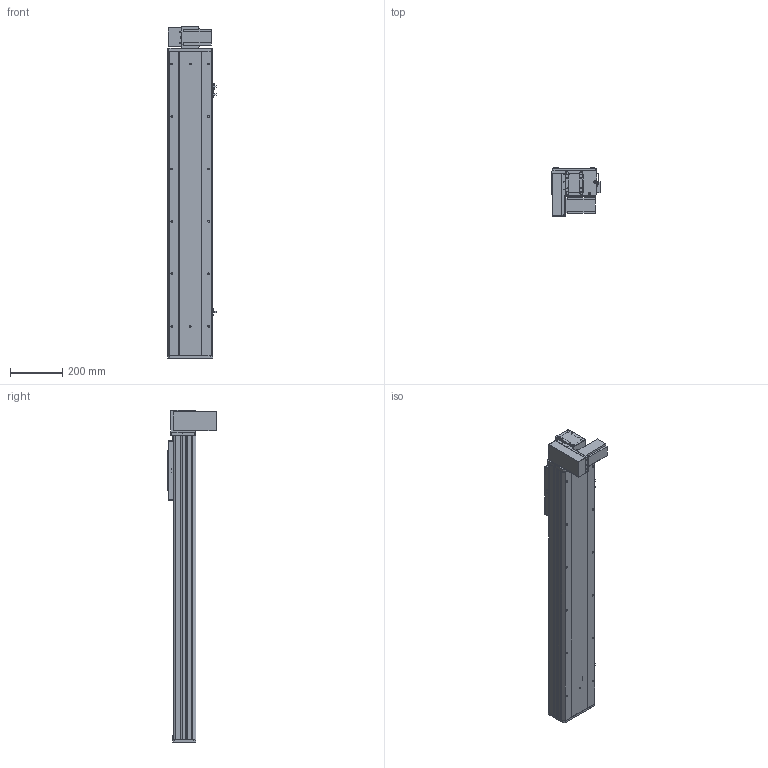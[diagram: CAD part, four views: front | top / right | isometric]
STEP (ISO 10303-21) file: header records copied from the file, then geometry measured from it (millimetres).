
FILE_DESCRIPTION (( 'STEP AP203' ), '1' );
FILE_NAME ('Y170CB-D105-S850-BM-P400W.STEP', '2020-02-20T06:22:04', ( '微软用户' ), ( '微软中国' ), 'SwSTEP 2.0', 'SolidWorks 2017', '' );
FILE_SCHEMA (( 'CONFIG_CONTROL_DESIGN' ));
Length unit declared in the file: millimetre
Products named in the file (18): 00B-俋欶BM--163; 70CB--耜裔; 70B喘謫眊----; B-源倛裔啣; 70C-雄赽釱-奻-; Y170CB-D105-S850-BM-P400W; 0C--雄赽釱俋欶-170; 0B-萇儂楊擘啣; 70CB-詩湍--; san松下电机400不带刹车----; Y100-135俋离換覜ん--; 70CB-掛极-; Y170CB-陔俋离換覜結え---; --70CB --喘謫眊楊擘啣-; Y1埴倛裔; 70CB-耜裔啣-; 17B-耜蚾蟀諉啣----; 70C--詩湍揤踡え-
Assembly tree (21 placements, depth 2):
  Y170CB-D105-S850-BM-P400W
    B-源倛裔啣
    0B-萇儂楊擘啣
    san松下电机400不带刹车----
    70CB-掛极-
    --70CB --喘謫眊楊擘啣-
    70CB-耜裔啣-  x2
    70C--詩湍揤踡え-  x2
    70CB--耜裔
    70C-雄赽釱-奻-
    0C--雄赽釱俋欶-170
    70CB-詩湍--
    Y100-135俋离換覜ん--  x3
    Y170CB-陔俋离換覜結え---
    Y1埴倛裔
    17B-耜蚾蟀諉啣----
    00B-俋欶BM--163
    70B喘謫眊----
Bounding box: 183.5 x 184 x 1266 mm (x, y, z)
Volume: 5949293.6 mm3; surface area: 2128611.2 mm2
Topology: 21 solids, 21 shells, 999 faces, 2669 edges, 1770 vertices
Faces by surface type: cylinder 513, plane 462, cone 24
Entity records: 31744 total; most frequent: CARTESIAN_POINT 5796, DIRECTION 5162, ORIENTED_EDGE 4820, EDGE_CURVE 2410, AXIS2_PLACEMENT_3D 1888, VERTEX_POINT 1600, LINE 1386, VECTOR 1386
